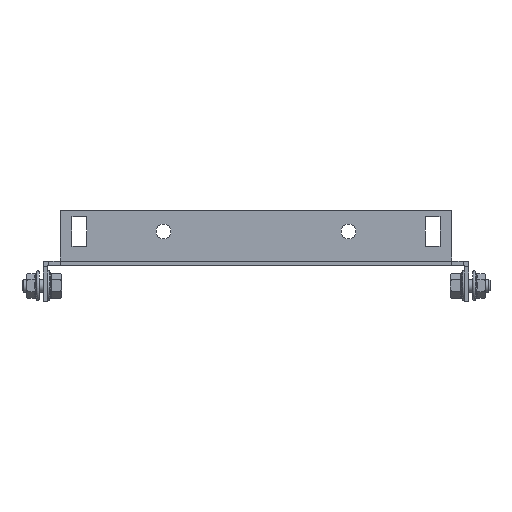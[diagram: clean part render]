
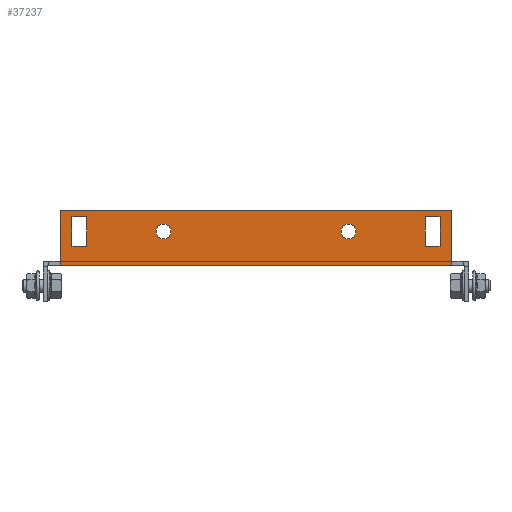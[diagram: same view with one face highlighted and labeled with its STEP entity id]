
A CAD part, front view. The second image highlights one B-rep face of the part: STEP entity #37237.
In plain terms, the highlighted planar face has unit normal (0, -1, 0).
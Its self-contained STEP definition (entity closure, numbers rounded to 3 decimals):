
#34292 = VERTEX_POINT('',#34293);
#34293 = CARTESIAN_POINT('',(92.,-434.5,0.));
#34299 = EDGE_CURVE('',#34300,#34292,#34302,.T.);
#34300 = VERTEX_POINT('',#34301);
#34301 = CARTESIAN_POINT('',(-92.,-434.5,0.));
#34302 = LINE('',#34303,#34304);
#34303 = CARTESIAN_POINT('',(-92.,-434.5,0.));
#34304 = VECTOR('',#34305,1.);
#34305 = DIRECTION('',(1.,-0.,-0.));
#37116 = VERTEX_POINT('',#37117);
#37117 = CARTESIAN_POINT('',(-92.,-434.5,2.6));
#37132 = EDGE_CURVE('',#37116,#34300,#37133,.T.);
#37133 = LINE('',#37134,#37135);
#37134 = CARTESIAN_POINT('',(-92.,-434.5,2.6));
#37135 = VECTOR('',#37136,1.);
#37136 = DIRECTION('',(0.,0.,-1.));
#37156 = VERTEX_POINT('',#37157);
#37157 = CARTESIAN_POINT('',(92.,-434.5,2.6));
#37163 = EDGE_CURVE('',#37156,#34292,#37164,.T.);
#37164 = LINE('',#37165,#37166);
#37165 = CARTESIAN_POINT('',(92.,-434.5,2.));
#37166 = VECTOR('',#37167,1.);
#37167 = DIRECTION('',(-0.,0.,-1.));
#37189 = VERTEX_POINT('',#37190);
#37190 = CARTESIAN_POINT('',(92.,-434.5,26.));
#37196 = EDGE_CURVE('',#37156,#37189,#37197,.T.);
#37197 = LINE('',#37198,#37199);
#37198 = CARTESIAN_POINT('',(92.,-434.5,26.));
#37199 = VECTOR('',#37200,1.);
#37200 = DIRECTION('',(0.,0.,1.));
#37211 = EDGE_CURVE('',#37212,#37116,#37214,.T.);
#37212 = VERTEX_POINT('',#37213);
#37213 = CARTESIAN_POINT('',(-92.,-434.5,26.));
#37214 = LINE('',#37215,#37216);
#37215 = CARTESIAN_POINT('',(-92.,-434.5,2.));
#37216 = VECTOR('',#37217,1.);
#37217 = DIRECTION('',(0.,0.,-1.));
#37237 = ADVANCED_FACE('',(#37238,#37272,#37283,#37294,#37328),#37341,
  .F.);
#37238 = FACE_BOUND('',#37239,.T.);
#37239 = EDGE_LOOP('',(#37240,#37250,#37258,#37266));
#37240 = ORIENTED_EDGE('',*,*,#37241,.F.);
#37241 = EDGE_CURVE('',#37242,#37244,#37246,.T.);
#37242 = VERTEX_POINT('',#37243);
#37243 = CARTESIAN_POINT('',(86.5,-434.5,9.));
#37244 = VERTEX_POINT('',#37245);
#37245 = CARTESIAN_POINT('',(86.5,-434.5,23.));
#37246 = LINE('',#37247,#37248);
#37247 = CARTESIAN_POINT('',(86.5,-434.5,23.));
#37248 = VECTOR('',#37249,1.);
#37249 = DIRECTION('',(-0.,-0.,1.));
#37250 = ORIENTED_EDGE('',*,*,#37251,.F.);
#37251 = EDGE_CURVE('',#37252,#37242,#37254,.T.);
#37252 = VERTEX_POINT('',#37253);
#37253 = CARTESIAN_POINT('',(79.5,-434.5,9.));
#37254 = LINE('',#37255,#37256);
#37255 = CARTESIAN_POINT('',(86.5,-434.5,9.));
#37256 = VECTOR('',#37257,1.);
#37257 = DIRECTION('',(1.,-0.,-0.));
#37258 = ORIENTED_EDGE('',*,*,#37259,.F.);
#37259 = EDGE_CURVE('',#37260,#37252,#37262,.T.);
#37260 = VERTEX_POINT('',#37261);
#37261 = CARTESIAN_POINT('',(79.5,-434.5,23.));
#37262 = LINE('',#37263,#37264);
#37263 = CARTESIAN_POINT('',(79.5,-434.5,9.));
#37264 = VECTOR('',#37265,1.);
#37265 = DIRECTION('',(-0.,-0.,-1.));
#37266 = ORIENTED_EDGE('',*,*,#37267,.F.);
#37267 = EDGE_CURVE('',#37244,#37260,#37268,.T.);
#37268 = LINE('',#37269,#37270);
#37269 = CARTESIAN_POINT('',(79.5,-434.5,23.));
#37270 = VECTOR('',#37271,1.);
#37271 = DIRECTION('',(-1.,-0.,-0.));
#37272 = FACE_BOUND('',#37273,.T.);
#37273 = EDGE_LOOP('',(#37274));
#37274 = ORIENTED_EDGE('',*,*,#37275,.F.);
#37275 = EDGE_CURVE('',#37276,#37276,#37278,.T.);
#37276 = VERTEX_POINT('',#37277);
#37277 = CARTESIAN_POINT('',(43.5,-434.5,19.5));
#37278 = CIRCLE('',#37279,3.5);
#37279 = AXIS2_PLACEMENT_3D('',#37280,#37281,#37282);
#37280 = CARTESIAN_POINT('',(43.5,-434.5,16.));
#37281 = DIRECTION('',(0.,-1.,0.));
#37282 = DIRECTION('',(0.,0.,1.));
#37283 = FACE_BOUND('',#37284,.T.);
#37284 = EDGE_LOOP('',(#37285));
#37285 = ORIENTED_EDGE('',*,*,#37286,.F.);
#37286 = EDGE_CURVE('',#37287,#37287,#37289,.T.);
#37287 = VERTEX_POINT('',#37288);
#37288 = CARTESIAN_POINT('',(-43.5,-434.5,12.5));
#37289 = CIRCLE('',#37290,3.5);
#37290 = AXIS2_PLACEMENT_3D('',#37291,#37292,#37293);
#37291 = CARTESIAN_POINT('',(-43.5,-434.5,16.));
#37292 = DIRECTION('',(0.,-1.,0.));
#37293 = DIRECTION('',(0.,0.,-1.));
#37294 = FACE_BOUND('',#37295,.T.);
#37295 = EDGE_LOOP('',(#37296,#37306,#37314,#37322));
#37296 = ORIENTED_EDGE('',*,*,#37297,.F.);
#37297 = EDGE_CURVE('',#37298,#37300,#37302,.T.);
#37298 = VERTEX_POINT('',#37299);
#37299 = CARTESIAN_POINT('',(-86.5,-434.5,23.));
#37300 = VERTEX_POINT('',#37301);
#37301 = CARTESIAN_POINT('',(-86.5,-434.5,9.));
#37302 = LINE('',#37303,#37304);
#37303 = CARTESIAN_POINT('',(-86.5,-434.5,9.));
#37304 = VECTOR('',#37305,1.);
#37305 = DIRECTION('',(-0.,-0.,-1.));
#37306 = ORIENTED_EDGE('',*,*,#37307,.F.);
#37307 = EDGE_CURVE('',#37308,#37298,#37310,.T.);
#37308 = VERTEX_POINT('',#37309);
#37309 = CARTESIAN_POINT('',(-79.5,-434.5,23.));
#37310 = LINE('',#37311,#37312);
#37311 = CARTESIAN_POINT('',(-86.5,-434.5,23.));
#37312 = VECTOR('',#37313,1.);
#37313 = DIRECTION('',(-1.,-0.,-0.));
#37314 = ORIENTED_EDGE('',*,*,#37315,.F.);
#37315 = EDGE_CURVE('',#37316,#37308,#37318,.T.);
#37316 = VERTEX_POINT('',#37317);
#37317 = CARTESIAN_POINT('',(-79.5,-434.5,9.));
#37318 = LINE('',#37319,#37320);
#37319 = CARTESIAN_POINT('',(-79.5,-434.5,23.));
#37320 = VECTOR('',#37321,1.);
#37321 = DIRECTION('',(-0.,-0.,1.));
#37322 = ORIENTED_EDGE('',*,*,#37323,.F.);
#37323 = EDGE_CURVE('',#37300,#37316,#37324,.T.);
#37324 = LINE('',#37325,#37326);
#37325 = CARTESIAN_POINT('',(-79.5,-434.5,9.));
#37326 = VECTOR('',#37327,1.);
#37327 = DIRECTION('',(1.,-0.,-0.));
#37328 = FACE_BOUND('',#37329,.T.);
#37329 = EDGE_LOOP('',(#37330,#37331,#37332,#37333,#37334,#37335));
#37330 = ORIENTED_EDGE('',*,*,#37211,.T.);
#37331 = ORIENTED_EDGE('',*,*,#37132,.T.);
#37332 = ORIENTED_EDGE('',*,*,#34299,.T.);
#37333 = ORIENTED_EDGE('',*,*,#37163,.F.);
#37334 = ORIENTED_EDGE('',*,*,#37196,.T.);
#37335 = ORIENTED_EDGE('',*,*,#37336,.T.);
#37336 = EDGE_CURVE('',#37189,#37212,#37337,.T.);
#37337 = LINE('',#37338,#37339);
#37338 = CARTESIAN_POINT('',(-92.,-434.5,26.));
#37339 = VECTOR('',#37340,1.);
#37340 = DIRECTION('',(-1.,-0.,-0.));
#37341 = PLANE('',#37342);
#37342 = AXIS2_PLACEMENT_3D('',#37343,#37344,#37345);
#37343 = CARTESIAN_POINT('',(92.,-434.5,2.));
#37344 = DIRECTION('',(-0.,1.,0.));
#37345 = DIRECTION('',(0.,0.,1.));
